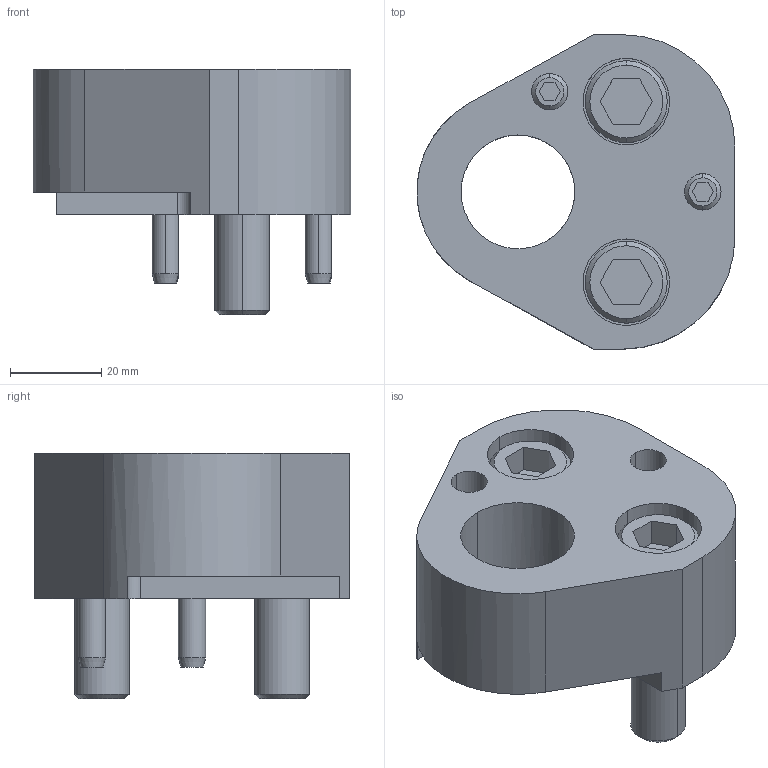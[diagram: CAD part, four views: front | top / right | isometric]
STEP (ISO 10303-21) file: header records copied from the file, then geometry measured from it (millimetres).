
FILE_DESCRIPTION(/* description */ (''),/* implementation_level */ '2;1');
FILE_NAME(/* name */ '3d_crnfr25_03658_r00.stp',/* time_stamp */ '2011-01-10T14:16:19+09:00',/* author */ ('MISUMI'),/* organization */ (''),/* preprocessor_version */ 'ST-DEVELOPER v11',/* originating_system */ 'UGS - NX 5.0',/* authorisation */ '');
FILE_SCHEMA (('CONFIG_CONTROL_DESIGN'));
Length unit declared in the file: millimetre
Products named in the file (1): 3d_crnfr25_03658_r00
Bounding box: 69.86 x 69.1 x 54 mm (x, y, z)
Volume: 99186 mm3; surface area: 27276 mm2
Topology: 7 solids, 7 shells, 136 faces, 305 edges, 196 vertices
Faces by surface type: plane 62, cylinder 48, cone 26
Entity records: 3934 total; most frequent: DIRECTION 696, CARTESIAN_POINT 695, ORIENTED_EDGE 610, EDGE_CURVE 305, AXIS2_PLACEMENT_3D 261, VERTEX_POINT 196, LINE 174, VECTOR 174
